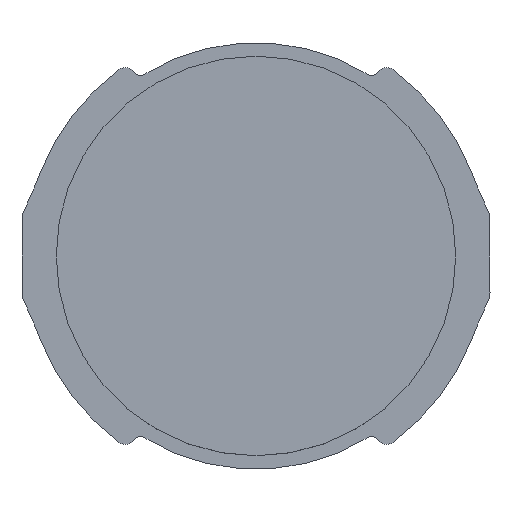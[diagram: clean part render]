
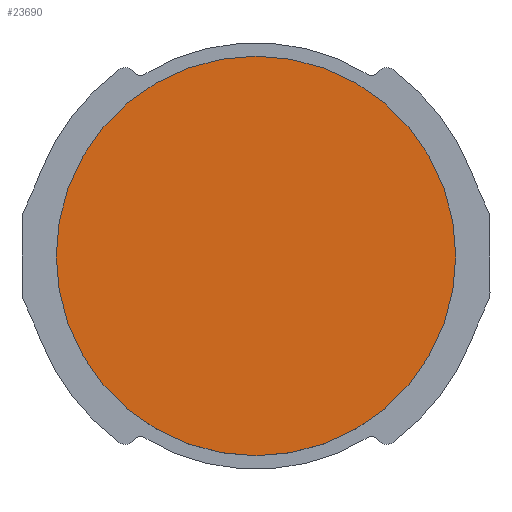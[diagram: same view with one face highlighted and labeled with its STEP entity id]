
A CAD part, top view. The second image highlights one B-rep face of the part: STEP entity #23690.
In plain terms, the highlighted planar face has unit normal (0, 0, 1).
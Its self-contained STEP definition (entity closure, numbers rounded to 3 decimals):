
#23490=CARTESIAN_POINT('',(0.,-9.662,15.));
#23500=DIRECTION('',(0.,0.,1.));
#23510=DIRECTION('',(1.,0.,-0.));
#23520=AXIS2_PLACEMENT_3D('',#23490,#23500,#23510);
#23530=PLANE('',#23520);
#23540=CARTESIAN_POINT('',(0.,0.,15.));
#23550=DIRECTION('',(0.,0.,1.));
#23560=DIRECTION('',(1.,0.,0.));
#23570=AXIS2_PLACEMENT_3D('',#23540,#23550,#23560);
#23580=CIRCLE('',#23570,8.9);
#23590=CARTESIAN_POINT('',(8.9,0.,15.));
#23600=VERTEX_POINT('',#23590);
#23610=CARTESIAN_POINT('',(-8.9,0.,15.));
#23620=VERTEX_POINT('',#23610);
#23630=EDGE_CURVE('',#23600,#23620,#23580,.T.);
#23640=ORIENTED_EDGE('',*,*,#23630,.T.);
#23650=EDGE_CURVE('',#23620,#23600,#23580,.T.);
#23660=ORIENTED_EDGE('',*,*,#23650,.T.);
#23670=EDGE_LOOP('',(#23660,#23640));
#23680=FACE_OUTER_BOUND('',#23670,.T.);
#23690=ADVANCED_FACE('',(#23680),#23530,.T.);
